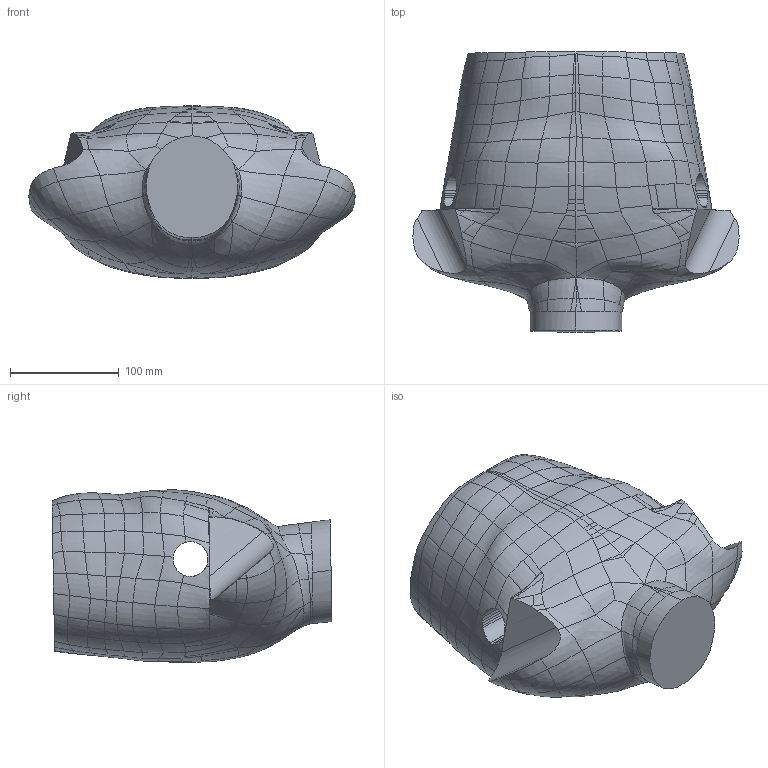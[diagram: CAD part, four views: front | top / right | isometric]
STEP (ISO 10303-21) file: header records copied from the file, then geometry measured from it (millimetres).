
FILE_DESCRIPTION(/* description */ (''),/* implementation_level */ '2;1');
FILE_NAME(/* name */ 'torso_august2005 (Final) 1.stp',/* time_stamp */ '2024-05-13T10:42:40-04:00',/* author */ ('Jim.Clevenger'),/* organization */ ('NHTSA/VRTC'),/* preprocessor_version */ 'ST-DEVELOPER v20',/* originating_system */ 'Autodesk Inventor 2024',/* authorisation */ '');
FILE_SCHEMA (('AUTOMOTIVE_DESIGN { 1 0 10303 214 3 1 1 }'));
Length unit declared in the file: millimetre
Products named in the file (1): torso_august2005 (Final) 1
Bounding box: 300.71 x 258.01 x 158.81 mm (x, y, z)
Volume: 6114012 mm3; surface area: 214806.2 mm2
Topology: 1 solids, 1 shells, 430 faces, 1041 edges, 598 vertices
Faces by surface type: bspline 420, plane 7, cylinder 3
Entity records: 91783 total; most frequent: CARTESIAN_POINT 85211, ORIENTED_EDGE 2056, EDGE_CURVE 1028, B_SPLINE_CURVE_WITH_KNOTS 998, VERTEX_POINT 598, FACE_OUTER_BOUND 430, EDGE_LOOP 430, ADVANCED_FACE 430
